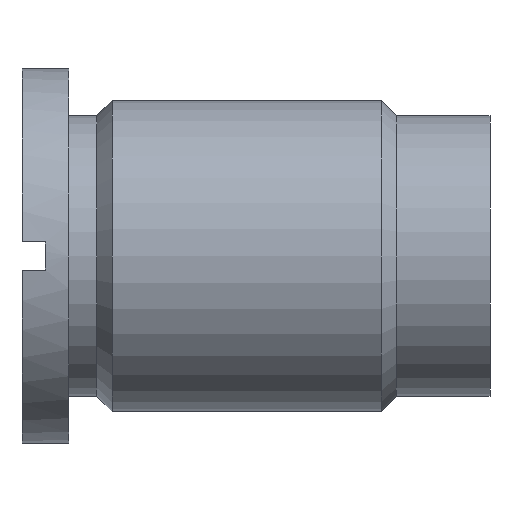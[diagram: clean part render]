
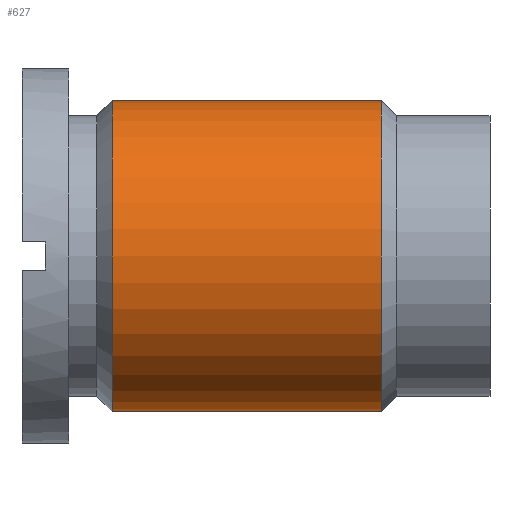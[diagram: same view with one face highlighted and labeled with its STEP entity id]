
A CAD part, front view. The second image highlights one B-rep face of the part: STEP entity #627.
In plain terms, the highlighted cylindrical face has radius 16.625 mm (diameter 33.25 mm), a partial arc.
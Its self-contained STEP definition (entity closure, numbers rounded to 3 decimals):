
#548=CARTESIAN_POINT('POINT2112',(4.625,0.,
   16.625));
#549=VERTEX_POINT('VERTEX2112',#548);
#556=CARTESIAN_POINT('POINT2113',(4.625,0.,
   -16.625));
#557=VERTEX_POINT('VERTEX2113',#556);
#558=CARTESIAN_POINT('POS2988',(4.625,0.,0.));
#559=DIRECTION('DIR4621',(1.,0.,0.));
#560=DIRECTION('DIR4622',(0.,0.,1.));
#561=AXIS2_PLACEMENT_3D('AXIS1634',#558,#559,#560);
#562=CIRCLE('ELLIPSE752',#561,16.625);
#583=EDGE_CURVE('EDGE3444',#549,#557,#562,.T.);
#588=CARTESIAN_POINT('POINT2114',(33.375,0.,
   16.625));
#589=VERTEX_POINT('VERTEX2114',#588);
#590=CARTESIAN_POINT('POS2991',(19.,0.,
   16.625));
#591=DIRECTION('DIR4626',(1.,0.,0.));
#592=VECTOR('VEC1356',#591,1.);
#593=LINE('STRAIGHT1356',#590,#592);
#594=EDGE_CURVE('EDGE3445',#549,#589,#593,.T.);
#596=CARTESIAN_POINT('POINT2115',(33.375,0.,
   -16.625));
#597=VERTEX_POINT('VERTEX2115',#596);
#598=CARTESIAN_POINT('POS2992',(33.375,0.,0.));
#599=DIRECTION('DIR4627',(1.,0.,0.));
#600=DIRECTION('DIR4628',(0.,0.,1.));
#601=AXIS2_PLACEMENT_3D('AXIS1636',#598,#599,#600);
#602=CIRCLE('ELLIPSE753',#601,16.625);
#605=CARTESIAN_POINT('POS2993',(19.,0.,
   -16.625));
#606=DIRECTION('DIR4629',(-1.,0.,0.));
#607=VECTOR('VEC1357',#606,1.);
#608=LINE('STRAIGHT1357',#605,#607);
#609=EDGE_CURVE('EDGE3447',#597,#557,#608,.T.);
#614=CARTESIAN_POINT('POS2994',(19.,0.,0.));
#615=DIRECTION('DIR4630',(1.,0.,0.));
#616=DIRECTION('DIR4631',(0.,0.,1.));
#617=AXIS2_PLACEMENT_3D('AXIS1637',#614,#615,#616);
#618=CYLINDRICAL_SURFACE('CONE_SURF362',#617,16.625);
#620=ORIENTED_EDGE('COEDGE6891',*,*,#594,.F.);
#621=ORIENTED_EDGE('COEDGE6892',*,*,#583,.T.);
#622=ORIENTED_EDGE('COEDGE6893',*,*,#609,.F.);
#623=EDGE_CURVE('EDGE3448',#589,#597,#602,.T.);
#624=ORIENTED_EDGE('COEDGE6894',*,*,#623,.F.);
#625=EDGE_LOOP('NONE',(#620,#621,#622,#624));
#626=FACE_BOUND('LOOP1',#625,.T.);
#627=ADVANCED_FACE('FACE1521',(#626),#618,.T.);
